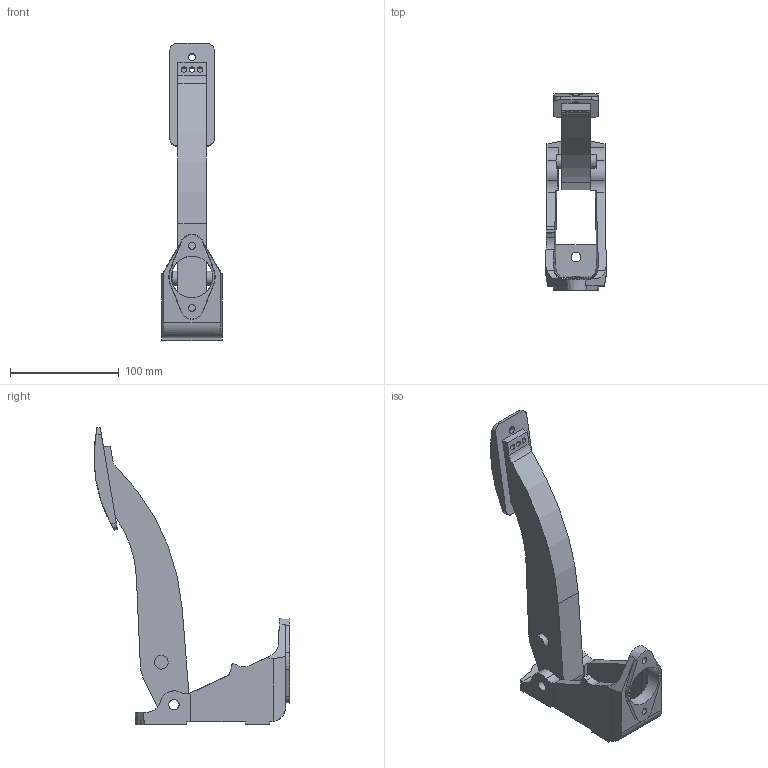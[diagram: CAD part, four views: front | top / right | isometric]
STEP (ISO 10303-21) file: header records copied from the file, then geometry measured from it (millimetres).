
FILE_DESCRIPTION(/* description */ ('Unknown'),/* implementation_level */ '2;1');
FILE_NAME(/* name */ '72-613',/* time_stamp */ '2024-03-05T09:05:01-08:00',/* author */ ('Unknown'),/* organization */ ('Unknown'),/* preprocessor_version */ 'ST-DEVELOPER v18.104',/* originating_system */ 'Solid Edge',/* authorisation */ 'Unknown');
FILE_SCHEMA (('AUTOMOTIVE_DESIGN {1 0 10303 214 3 1 1}'));
Length unit declared in the file: millimetre
Products named in the file (1): 72-613
Bounding box: 55.88 x 180.1 x 273.17 mm (x, y, z)
Volume: 369028 mm3; surface area: 77239.9 mm2
Topology: 1 solids, 3 shells, 141 faces, 385 edges, 254 vertices
Faces by surface type: plane 75, cylinder 54, cone 12
Full cylindrical faces by diameter (mm): 4.976 x9, 6.411 x2, 6.629 x4, 8.731 x2, 9.525 x2, 12.7 x2, 12.713 x1, 38.1 x1
Entity records: 5567 total; most frequent: CARTESIAN_POINT 1025, DIRECTION 741, ORIENTED_EDGE 694, EDGE_CURVE 347, AXIS2_PLACEMENT_3D 268, VERTEX_POINT 245, LINE 205, VECTOR 205
